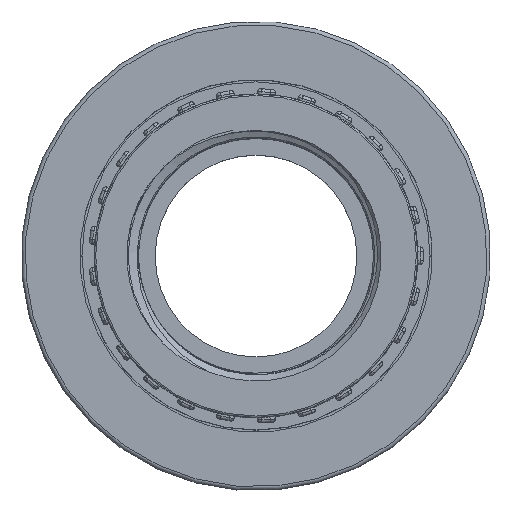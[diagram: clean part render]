
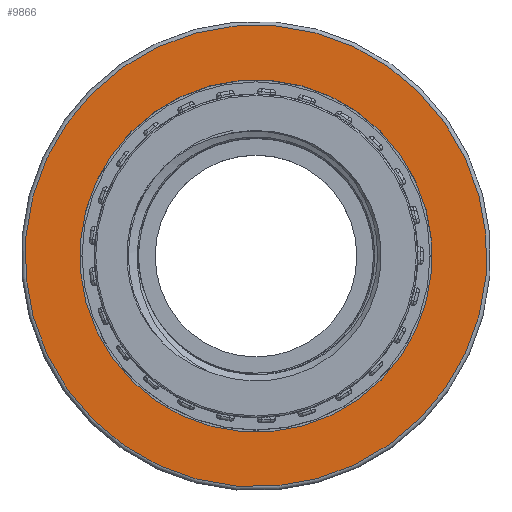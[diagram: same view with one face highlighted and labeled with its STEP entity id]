
A CAD part, top view. The second image highlights one B-rep face of the part: STEP entity #9866.
In plain terms, the highlighted planar face has unit normal (0, 0, 1).
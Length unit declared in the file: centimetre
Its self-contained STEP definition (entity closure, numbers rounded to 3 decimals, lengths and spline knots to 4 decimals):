
#1942=FACE_BOUND('',#2835,.T.);
#2258=FACE_OUTER_BOUND('',#2834,.T.);
#2834=EDGE_LOOP('',(#7523));
#2835=EDGE_LOOP('',(#7524));
#3414=CIRCLE('',#10688,2.975);
#3416=CIRCLE('',#10691,2.27);
#4152=VERTEX_POINT('',#22197);
#4154=VERTEX_POINT('',#22202);
#5328=EDGE_CURVE('',#4152,#4152,#3414,.T.);
#5330=EDGE_CURVE('',#4154,#4154,#3416,.T.);
#7523=ORIENTED_EDGE('',*,*,#5328,.F.);
#7524=ORIENTED_EDGE('',*,*,#5330,.T.);
#8907=PLANE('',#10690);
#9866=ADVANCED_FACE('',(#2258,#1942),#8907,.T.);
#10688=AXIS2_PLACEMENT_3D('',#22198,#12680,#12681);
#10690=AXIS2_PLACEMENT_3D('',#22201,#12684,#12685);
#10691=AXIS2_PLACEMENT_3D('',#22203,#12686,#12687);
#12680=DIRECTION('center_axis',(0.,0.,
-1.));
#12681=DIRECTION('ref_axis',(0.419,0.908,0.));
#12684=DIRECTION('center_axis',(0.,0.,
1.));
#12685=DIRECTION('ref_axis',(0.908,-0.419,0.));
#12686=DIRECTION('center_axis',(0.,0.,
-1.));
#12687=DIRECTION('ref_axis',(0.419,0.908,0.));
#22197=CARTESIAN_POINT('',(-1.2476,-2.7007,1.54));
#22198=CARTESIAN_POINT('Origin',(0.,0.,
1.54));
#22201=CARTESIAN_POINT('Origin',(-1.2686,-2.7461,1.54));
#22202=CARTESIAN_POINT('',(-0.952,-2.0607,1.54));
#22203=CARTESIAN_POINT('Origin',(0.,0.,
1.54));
